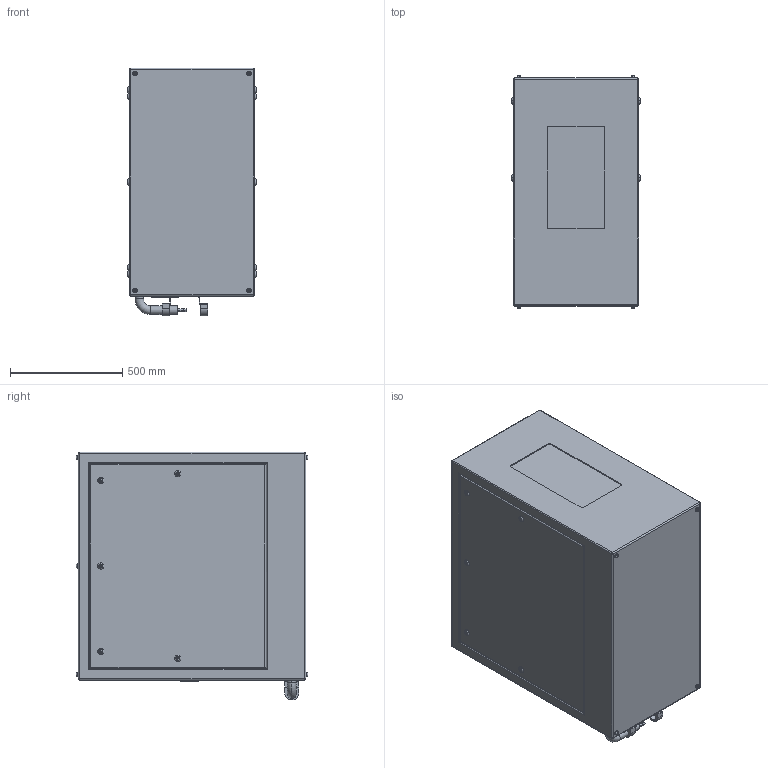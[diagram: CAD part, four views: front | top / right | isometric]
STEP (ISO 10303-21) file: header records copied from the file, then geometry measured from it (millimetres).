
FILE_DESCRIPTION (( 'STEP AP214' ), '1' );
FILE_NAME ('Oasis 59.204.P R02.STEP', '2022-08-27T16:04:19', ( '' ), ( '' ), 'SwSTEP 2.0', 'SolidWorks 2020', '' );
FILE_SCHEMA (( 'AUTOMOTIVE_DESIGN' ));
Length unit declared in the file: inch
Products named in the file (1): Oasis 59.204.P R02
Bounding box: 571.5 x 1033.27 x 1104.9 mm (x, y, z)
Volume: 575854873 mm3; surface area: 4822870.6 mm2
Topology: 2 solids, 8 shells, 555 faces, 1265 edges, 802 vertices
Faces by surface type: plane 307, cylinder 186, torus 54, bspline 8
Entity records: 21388 total; most frequent: CARTESIAN_POINT 3135, DIRECTION 2763, ORIENTED_EDGE 2514, EDGE_CURVE 1257, AXIS2_PLACEMENT_3D 990, VERTEX_POINT 802, VECTOR 783, LINE 783
